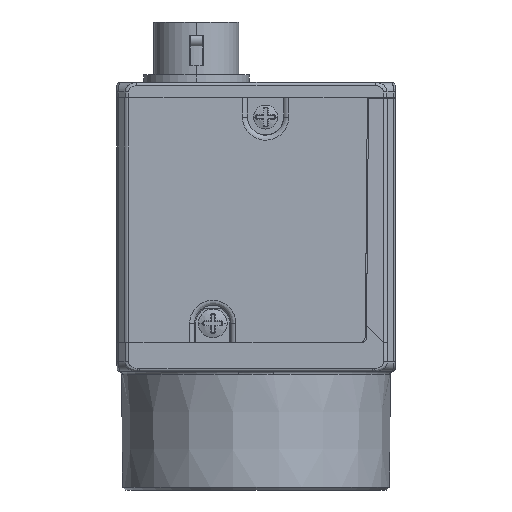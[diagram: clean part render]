
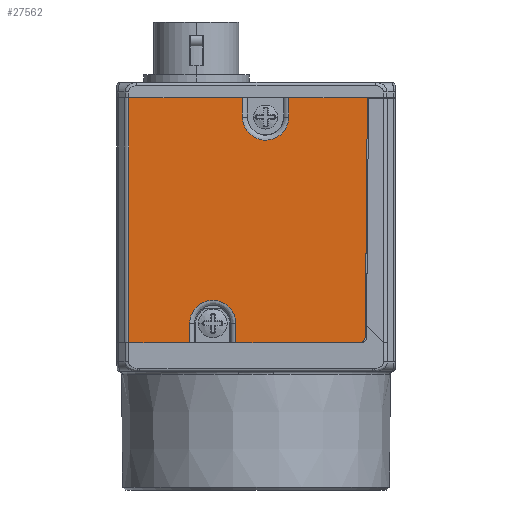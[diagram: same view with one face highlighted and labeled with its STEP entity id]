
A CAD part, left-side view. The second image highlights one B-rep face of the part: STEP entity #27562.
In plain terms, the highlighted planar face has unit normal (-1, 0, 0).
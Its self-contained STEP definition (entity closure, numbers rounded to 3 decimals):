
#2145=DIRECTION('',(0.,0.,-1.));
#2146=VECTOR('',#2145,25.5);
#2147=CARTESIAN_POINT('',(-14.5,13.251,23.));
#2148=LINE('',#2147,#2146);
#2149=DIRECTION('',(0.,-1.,0.));
#2150=VECTOR('',#2149,6.343);
#2151=CARTESIAN_POINT('',(-14.5,13.251,-2.5));
#2152=LINE('',#2151,#2150);
#2153=DIRECTION('',(0.,-1.,0.));
#2154=VECTOR('',#2153,12.874);
#2155=CARTESIAN_POINT('',(-14.5,2.092,-2.5));
#2156=LINE('',#2155,#2154);
#2225=CARTESIAN_POINT('',(-14.5,-1.,21.));
#2226=DIRECTION('',(-1.,0.,0.));
#2227=DIRECTION('',(0.,1.,0.));
#2228=AXIS2_PLACEMENT_3D('',#2225,#2226,#2227);
#2230=CARTESIAN_POINT('',(-14.5,-1.,21.));
#2231=DIRECTION('',(-1.,0.,0.));
#2232=DIRECTION('',(0.,0.993,-0.119));
#2233=AXIS2_PLACEMENT_3D('',#2230,#2231,#2232);
#2235=DIRECTION('',(0.,0.009,-1.));
#2236=VECTOR('',#2235,24.906);
#2237=CARTESIAN_POINT('',(-14.5,-11.6,23.));
#2238=LINE('',#2237,#2236);
#2239=CARTESIAN_POINT('',(-14.5,-10.783,-1.9));
#2240=DIRECTION('',(1.,0.,0.));
#2241=DIRECTION('',(0.,-1.,-0.009));
#2242=AXIS2_PLACEMENT_3D('',#2239,#2240,#2241);
#2244=CARTESIAN_POINT('',(-14.5,4.5,-0.5));
#2245=DIRECTION('',(-1.,0.,0.));
#2246=DIRECTION('',(0.,-1.,0.));
#2247=AXIS2_PLACEMENT_3D('',#2244,#2245,#2246);
#2249=CARTESIAN_POINT('',(-14.5,4.5,-0.5));
#2250=DIRECTION('',(-1.,0.,0.));
#2251=DIRECTION('',(0.,-0.993,0.119));
#2252=AXIS2_PLACEMENT_3D('',#2249,#2250,#2251);
#2254=DIRECTION('',(0.,-1.,0.));
#2255=VECTOR('',#2254,11.843);
#2256=CARTESIAN_POINT('',(-14.5,13.251,23.));
#2257=LINE('',#2256,#2255);
#2331=DIRECTION('',(0.,-1.,0.));
#2332=VECTOR('',#2331,8.192);
#2333=CARTESIAN_POINT('',(-14.5,-3.408,23.));
#2334=LINE('',#2333,#2332);
#4192=DIRECTION('',(0.,0.,-1.));
#4193=VECTOR('',#4192,2.);
#4194=CARTESIAN_POINT('',(-14.5,-3.408,23.));
#4195=LINE('',#4194,#4193);
#4206=DIRECTION('',(0.,0.,1.));
#4207=VECTOR('',#4206,2.);
#4208=CARTESIAN_POINT('',(-14.5,1.408,21.));
#4209=LINE('',#4208,#4207);
#5029=DIRECTION('',(0.,0.,1.));
#5030=VECTOR('',#5029,2.);
#5031=CARTESIAN_POINT('',(-14.5,6.908,-2.5));
#5032=LINE('',#5031,#5030);
#5043=DIRECTION('',(0.,0.,-1.));
#5044=VECTOR('',#5043,2.);
#5045=CARTESIAN_POINT('',(-14.5,2.092,-0.5));
#5046=LINE('',#5045,#5044);
#22303=CARTESIAN_POINT('',(-14.5,2.092,-0.5));
#22304=CARTESIAN_POINT('',(-14.5,2.109,-0.213));
#22305=VERTEX_POINT('',#22303);
#22306=VERTEX_POINT('',#22304);
#22307=CARTESIAN_POINT('',(-14.5,6.908,-0.5));
#22308=VERTEX_POINT('',#22307);
#22309=CARTESIAN_POINT('',(-14.5,1.408,21.));
#22310=CARTESIAN_POINT('',(-14.5,1.391,20.713));
#22311=VERTEX_POINT('',#22309);
#22312=VERTEX_POINT('',#22310);
#22313=CARTESIAN_POINT('',(-14.5,-3.408,21.));
#22314=VERTEX_POINT('',#22313);
#23110=CARTESIAN_POINT('',(-14.5,13.251,-2.5));
#23111=CARTESIAN_POINT('',(-14.5,6.908,-2.5));
#23112=VERTEX_POINT('',#23110);
#23113=VERTEX_POINT('',#23111);
#23114=CARTESIAN_POINT('',(-14.5,2.092,-2.5));
#23115=CARTESIAN_POINT('',(-14.5,-10.783,-2.5));
#23116=VERTEX_POINT('',#23114);
#23117=VERTEX_POINT('',#23115);
#23157=CARTESIAN_POINT('',(-14.5,13.251,23.));
#23158=CARTESIAN_POINT('',(-14.5,1.408,23.));
#23159=VERTEX_POINT('',#23157);
#23160=VERTEX_POINT('',#23158);
#23161=CARTESIAN_POINT('',(-14.5,-3.408,23.));
#23162=CARTESIAN_POINT('',(-14.5,-11.6,23.));
#23163=VERTEX_POINT('',#23161);
#23164=VERTEX_POINT('',#23162);
#23197=CARTESIAN_POINT('',(-14.5,-11.383,-1.905));
#23198=VERTEX_POINT('',#23197);
#27528=CARTESIAN_POINT('',(-14.5,0.826,10.25));
#27529=DIRECTION('',(1.,0.,0.));
#27530=DIRECTION('',(0.,-1.,0.));
#27531=AXIS2_PLACEMENT_3D('',#27528,#27529,#27530);
#27532=PLANE('',#27531);
#27533=ORIENTED_EDGE('',*,*,#27498,.F.);
#27534=ORIENTED_EDGE('',*,*,#27488,.F.);
#27536=ORIENTED_EDGE('',*,*,#27535,.T.);
#27538=ORIENTED_EDGE('',*,*,#27537,.F.);
#27540=ORIENTED_EDGE('',*,*,#27539,.T.);
#27542=ORIENTED_EDGE('',*,*,#27541,.T.);
#27544=ORIENTED_EDGE('',*,*,#27543,.F.);
#27546=ORIENTED_EDGE('',*,*,#27545,.T.);
#27548=ORIENTED_EDGE('',*,*,#27547,.T.);
#27550=ORIENTED_EDGE('',*,*,#27549,.T.);
#27551=ORIENTED_EDGE('',*,*,#27501,.F.);
#27553=ORIENTED_EDGE('',*,*,#27552,.F.);
#27555=ORIENTED_EDGE('',*,*,#27554,.T.);
#27557=ORIENTED_EDGE('',*,*,#27556,.T.);
#27559=ORIENTED_EDGE('',*,*,#27558,.F.);
#27560=EDGE_LOOP('',(#27533,#27534,#27536,#27538,#27540,#27542,#27544,#27546,
#27548,#27550,#27551,#27553,#27555,#27557,#27559));
#27561=FACE_OUTER_BOUND('',#27560,.F.);
#27562=ADVANCED_FACE('',(#27561),#27532,.F.);
#2229=CIRCLE('',#2228,2.408);
#2234=CIRCLE('',#2233,2.408);
#2243=CIRCLE('',#2242,0.6);
#2248=CIRCLE('',#2247,2.408);
#2253=CIRCLE('',#2252,2.408);
#27488=EDGE_CURVE('',#23159,#23112,#2148,.T.);
#27498=EDGE_CURVE('',#23112,#23113,#2152,.T.);
#27501=EDGE_CURVE('',#23116,#23117,#2156,.T.);
#27535=EDGE_CURVE('',#23159,#23160,#2257,.T.);
#27537=EDGE_CURVE('',#22311,#23160,#4209,.T.);
#27539=EDGE_CURVE('',#22311,#22312,#2229,.T.);
#27541=EDGE_CURVE('',#22312,#22314,#2234,.T.);
#27543=EDGE_CURVE('',#23163,#22314,#4195,.T.);
#27545=EDGE_CURVE('',#23163,#23164,#2334,.T.);
#27547=EDGE_CURVE('',#23164,#23198,#2238,.T.);
#27549=EDGE_CURVE('',#23198,#23117,#2243,.T.);
#27552=EDGE_CURVE('',#22305,#23116,#5046,.T.);
#27554=EDGE_CURVE('',#22305,#22306,#2248,.T.);
#27556=EDGE_CURVE('',#22306,#22308,#2253,.T.);
#27558=EDGE_CURVE('',#23113,#22308,#5032,.T.);
